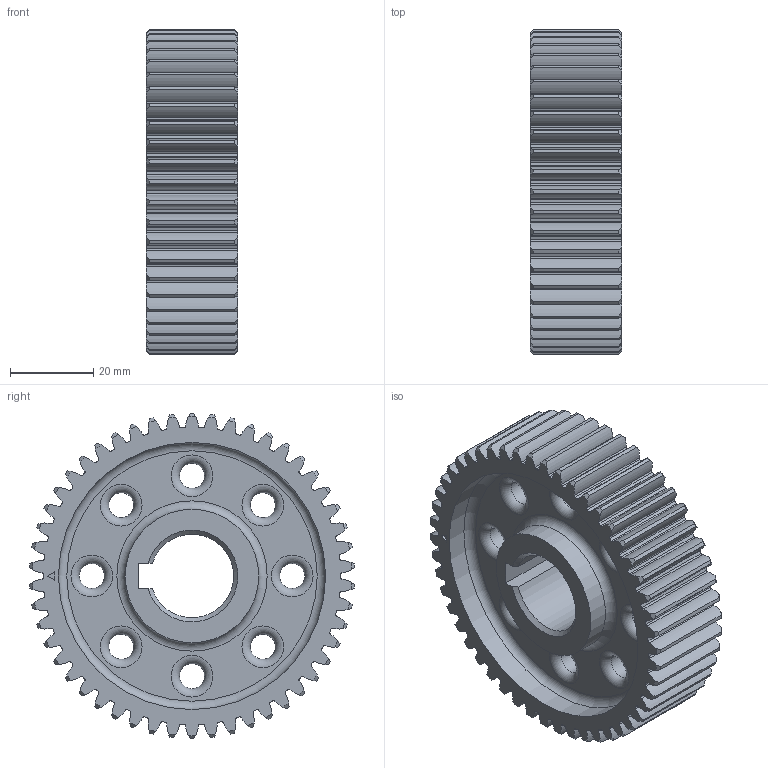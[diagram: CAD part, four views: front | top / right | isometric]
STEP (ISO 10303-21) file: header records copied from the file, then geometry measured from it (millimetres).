
FILE_DESCRIPTION(/* description */ (''),/* implementation_level */ '2;1');
FILE_NAME(/* name */ '',/* time_stamp */ '2026-03-27T11:17:00+09:00',/* author */ ('jhkim'),/* organization */ (''),/* preprocessor_version */ 'ST-DEVELOPER v20.1',/* originating_system */ 'Autodesk Inventor 2026',/* authorisation */ '');
FILE_SCHEMA (('AUTOMOTIVE_DESIGN { 1 0 10303 214 3 1 1 }'));
Length unit declared in the file: millimetre
Products named in the file (1): 종동 기어
Bounding box: 22 x 77.9 x 78 mm (x, y, z)
Volume: 53610.8 mm3; surface area: 23871.3 mm2
Topology: 1 solids, 1 shells, 452 faces, 1330 edges, 886 vertices
Faces by surface type: cylinder 313, cone 102, torus 20, plane 17
Full cylindrical faces by diameter (mm): 6 x8, 32 x2, 64 x2
Entity records: 15779 total; most frequent: CARTESIAN_POINT 3277, DIRECTION 2818, ORIENTED_EDGE 2660, EDGE_CURVE 1330, AXIS2_PLACEMENT_3D 1239, VERTEX_POINT 886, CIRCLE 786, EDGE_LOOP 476
